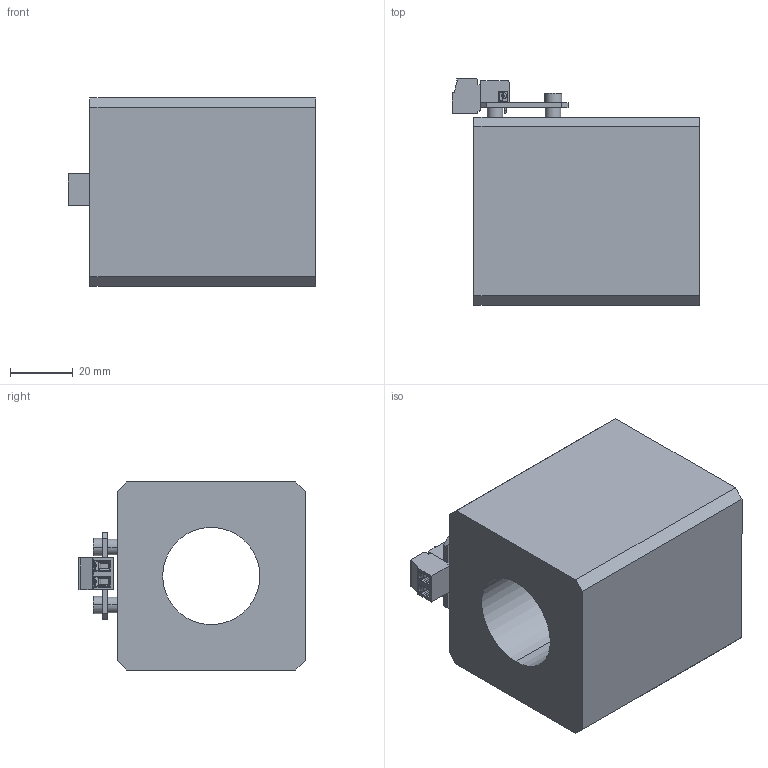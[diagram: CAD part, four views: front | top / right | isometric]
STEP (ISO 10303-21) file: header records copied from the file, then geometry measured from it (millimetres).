
FILE_DESCRIPTION (( 'STEP AP214' ), '1' );
FILE_NAME ('MXS60_31x72-M209a.STEP', '2015-07-17T07:54:33', ( '' ), ( '' ), 'SwSTEP 2.0', 'SolidWorks 2014', '' );
FILE_SCHEMA (( 'AUTOMOTIVE_DESIGN' ));
Length unit declared in the file: millimetre
Products named in the file (2): MXS60_31x72-M209a
Bounding box: 78.9 x 72.3 x 60 mm (x, y, z)
Volume: 213995.5 mm3; surface area: 39547.8 mm2
Topology: 19 solids, 20 shells, 607 faces, 1527 edges, 989 vertices
Faces by surface type: plane 367, cylinder 197, cone 30, bspline 11, torus 2
Entity records: 25305 total; most frequent: CARTESIAN_POINT 3663, DIRECTION 3044, ORIENTED_EDGE 3030, EDGE_CURVE 1515, VECTOR 1024, LINE 1024, AXIS2_PLACEMENT_3D 1010, VERTEX_POINT 989
